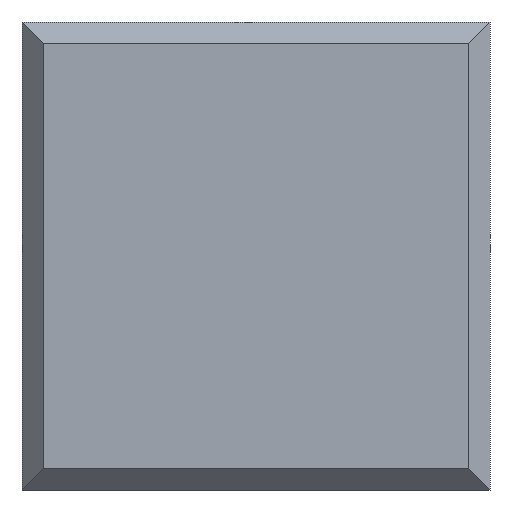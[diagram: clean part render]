
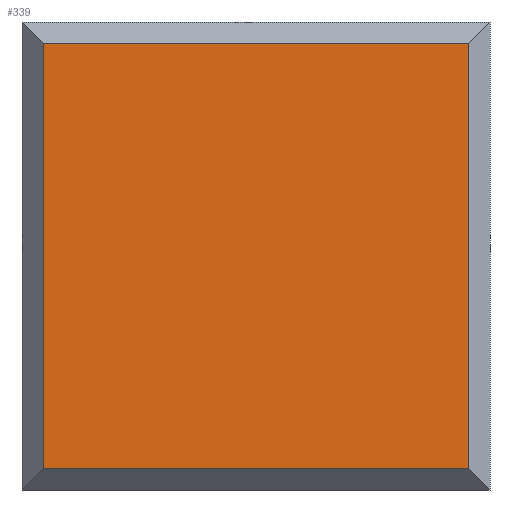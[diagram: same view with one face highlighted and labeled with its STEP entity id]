
A CAD part, front view. The second image highlights one B-rep face of the part: STEP entity #339.
In plain terms, the highlighted planar face has unit normal (0, -1, 0).
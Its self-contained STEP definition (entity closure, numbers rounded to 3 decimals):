
#4 = CARTESIAN_POINT ( 'NONE',  ( 10., -8., 11. ) ) ;
#16 = ORIENTED_EDGE ( 'NONE', *, *, #509, .T. ) ;
#46 = VECTOR ( 'NONE', #256, 1000. ) ;
#50 = CARTESIAN_POINT ( 'NONE',  ( 10., -8., -10. ) ) ;
#114 = EDGE_LOOP ( 'NONE', ( #578, #16, #126, #636 ) ) ;
#126 = ORIENTED_EDGE ( 'NONE', *, *, #311, .F. ) ;
#166 = LINE ( 'NONE', #515, #544 ) ;
#185 = VERTEX_POINT ( 'NONE', #50 ) ;
#227 = EDGE_CURVE ( 'NONE', #466, #185, #645, .T. ) ;
#228 = VERTEX_POINT ( 'NONE', #248 ) ;
#242 = FACE_OUTER_BOUND ( 'NONE', #114, .T. ) ;
#248 = CARTESIAN_POINT ( 'NONE',  ( -10., -8., -10. ) ) ;
#249 = AXIS2_PLACEMENT_3D ( 'NONE', #461, #430, #414 ) ;
#256 = DIRECTION ( 'NONE',  ( 0., 0., -1. ) ) ;
#271 = LINE ( 'NONE', #608, #604 ) ;
#311 = EDGE_CURVE ( 'NONE', #185, #228, #271, .T. ) ;
#339 = ADVANCED_FACE ( 'NONE', ( #242 ), #486, .T. ) ;
#414 = DIRECTION ( 'NONE',  ( -1., 0., 0. ) ) ;
#430 = DIRECTION ( 'NONE',  ( 0., -1., 0. ) ) ;
#461 = CARTESIAN_POINT ( 'NONE',  ( 10., -8., 10. ) ) ;
#466 = VERTEX_POINT ( 'NONE', #506 ) ;
#483 = DIRECTION ( 'NONE',  ( 1., 0., 0. ) ) ;
#486 = PLANE ( 'NONE',  #249 ) ;
#506 = CARTESIAN_POINT ( 'NONE',  ( 10., -8., 10. ) ) ;
#509 = EDGE_CURVE ( 'NONE', #673, #228, #652, .T. ) ;
#510 = DIRECTION ( 'NONE',  ( 0., 0., -1. ) ) ;
#515 = CARTESIAN_POINT ( 'NONE',  ( 11., -8., 10. ) ) ;
#544 = VECTOR ( 'NONE', #483, 1000. ) ;
#578 = ORIENTED_EDGE ( 'NONE', *, *, #871, .F. ) ;
#604 = VECTOR ( 'NONE', #658, 1000. ) ;
#608 = CARTESIAN_POINT ( 'NONE',  ( 11., -8., -10. ) ) ;
#636 = ORIENTED_EDGE ( 'NONE', *, *, #227, .F. ) ;
#645 = LINE ( 'NONE', #4, #46 ) ;
#652 = LINE ( 'NONE', #707, #833 ) ;
#658 = DIRECTION ( 'NONE',  ( -1., 0., 0. ) ) ;
#659 = CARTESIAN_POINT ( 'NONE',  ( -10., -8., 10. ) ) ;
#673 = VERTEX_POINT ( 'NONE', #659 ) ;
#707 = CARTESIAN_POINT ( 'NONE',  ( -10., -8., 10. ) ) ;
#833 = VECTOR ( 'NONE', #510, 1000. ) ;
#871 = EDGE_CURVE ( 'NONE', #673, #466, #166, .T. ) ;
